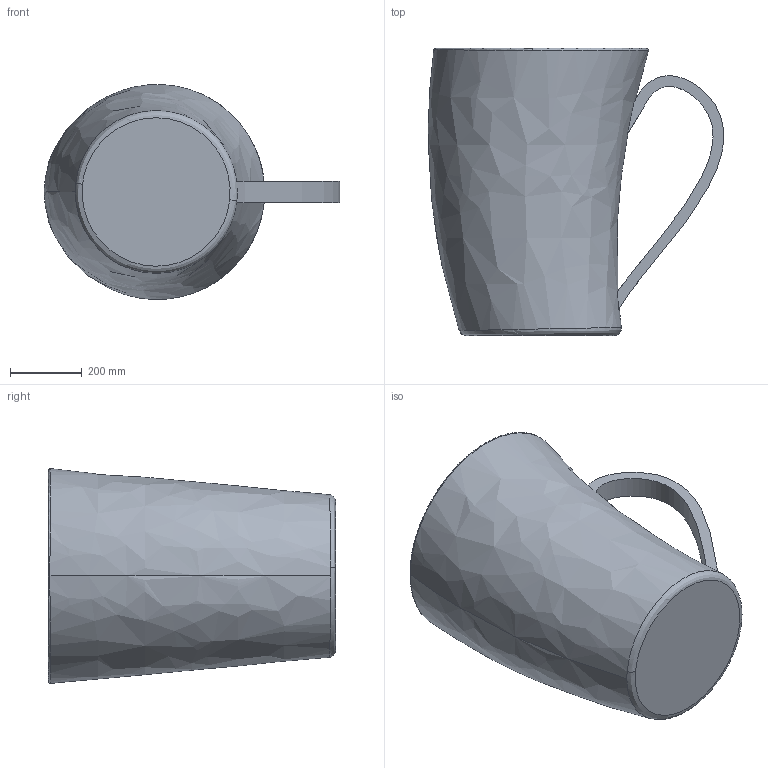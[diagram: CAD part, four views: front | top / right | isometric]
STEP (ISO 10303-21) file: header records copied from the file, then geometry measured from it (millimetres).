
FILE_DESCRIPTION (( 'STEP AP214' ), '1' );
FILE_NAME ('Solidworks_step.STEP', '2025-02-03T11:27:56', ( '' ), ( '' ), 'SwSTEP 2.0', 'SolidWorks 2024', '' );
FILE_SCHEMA (( 'AUTOMOTIVE_DESIGN' ));
Length unit declared in the file: millimetre
Products named in the file (1): Solidworks_step
Bounding box: 823.12 x 800 x 598.44 mm (x, y, z)
Volume: 28557223.8 mm3; surface area: 3014931.1 mm2
Topology: 1 solids, 1 shells, 24 faces, 65 edges, 42 vertices
Faces by surface type: bspline 17, plane 7
Entity records: 8644 total; most frequent: CARTESIAN_POINT 8163, ORIENTED_EDGE 130, EDGE_CURVE 65, B_SPLINE_CURVE_WITH_KNOTS 50, VERTEX_POINT 42, DIRECTION 39, EDGE_LOOP 25, FACE_OUTER_BOUND 24
